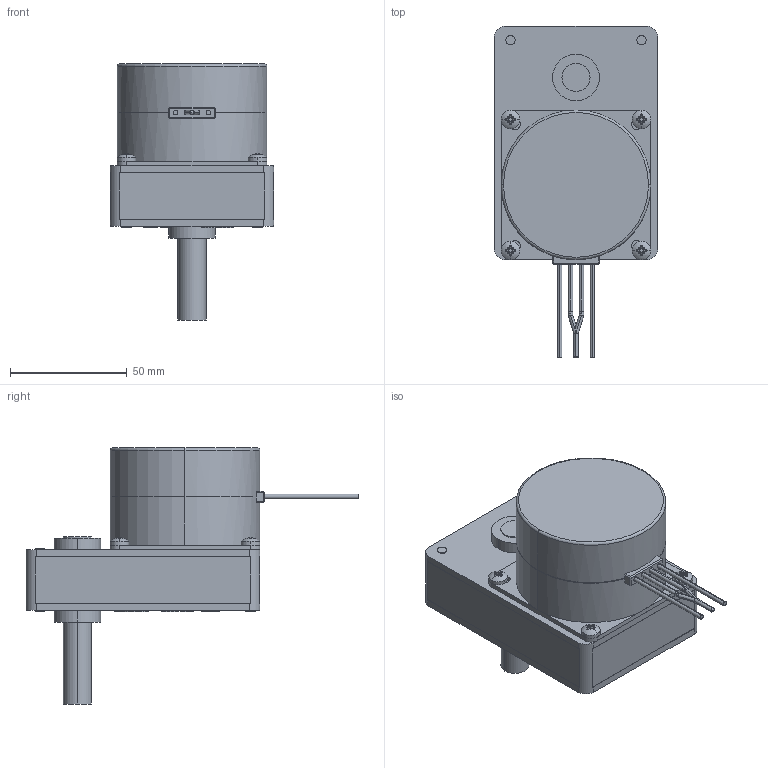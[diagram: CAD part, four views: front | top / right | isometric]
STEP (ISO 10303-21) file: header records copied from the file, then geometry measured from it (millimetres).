
FILE_DESCRIPTION (( 'STEP AP214' ), '1' );
FILE_NAME ('64S032L-C-SGP100S.STEP', '2019-04-24T12:08:34', ( '' ), ( '' ), 'SwSTEP 2.0', 'SolidWorks 2018', '' );
FILE_SCHEMA (( 'AUTOMOTIVE_DESIGN' ));
Length unit declared in the file: millimetre
Products named in the file (5): 64S032L-C-SGP100S; 64S032L-SGP100S.STEP; Vis_CBLZ_Vis CBLZ M4 x 8; SGP100S.STEP; 64S032L-C
Assembly tree (7 placements, depth 3):
  64S032L-C-SGP100S
    64S032L-SGP100S.STEP
      SGP100S.STEP
    64S032L-C
    Vis_CBLZ_Vis CBLZ M4 x 8  x4
Bounding box: 70 x 142 x 109.5 mm (x, y, z)
Volume: 329169.3 mm3; surface area: 45874.6 mm2
Topology: 6 solids, 6 shells, 477 faces, 1146 edges, 716 vertices
Faces by surface type: plane 230, cylinder 197, cone 40, sphere 8, torus 2
Entity records: 10728 total; most frequent: DIRECTION 1920, CARTESIAN_POINT 1763, ORIENTED_EDGE 1616, EDGE_CURVE 808, AXIS2_PLACEMENT_3D 763, VERTEX_POINT 518, EDGE_LOOP 434, VECTOR 394
